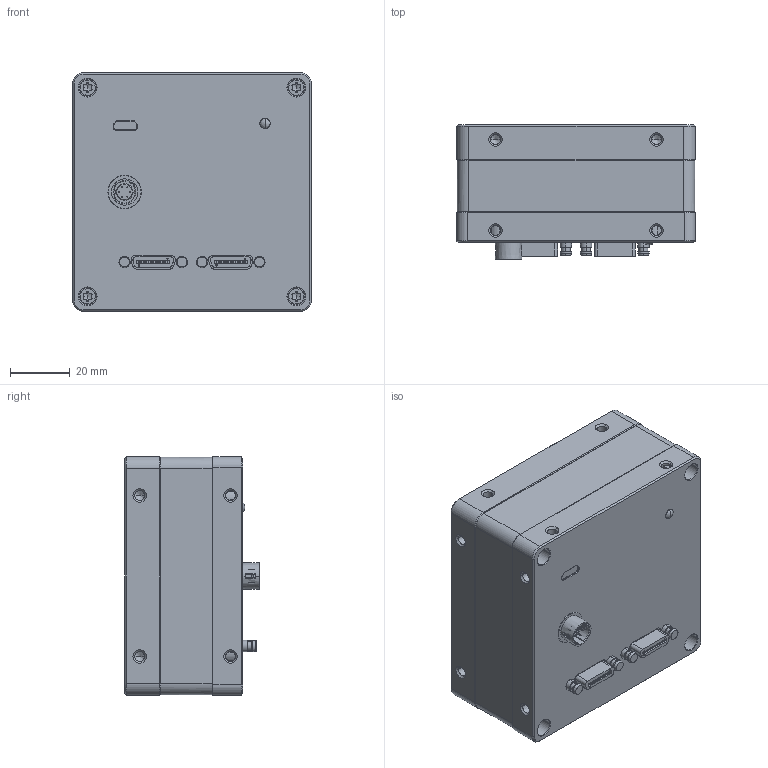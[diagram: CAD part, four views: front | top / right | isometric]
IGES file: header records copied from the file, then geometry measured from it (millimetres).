
Start section:  PTC IGES file: 0-dh3-2198-0006_sw0001.igs
Global section: file name: 0-dh3-2198-0006_sw0001.igs; native system: Creo Parametric by PTC Inc.; preprocessor: 2020184; author: 303992; organization: Unknown; date: 20231220.142432; units: millimetre
Bounding box: 80 x 45.08 x 80 mm (x, y, z)
Volume: 222159.3 mm3; surface area: 31370.4 mm2
Topology: 1 solids, 1 shells, 1040 faces, 2614 edges, 1617 vertices
Faces by surface type: bspline 615, revolution 425
